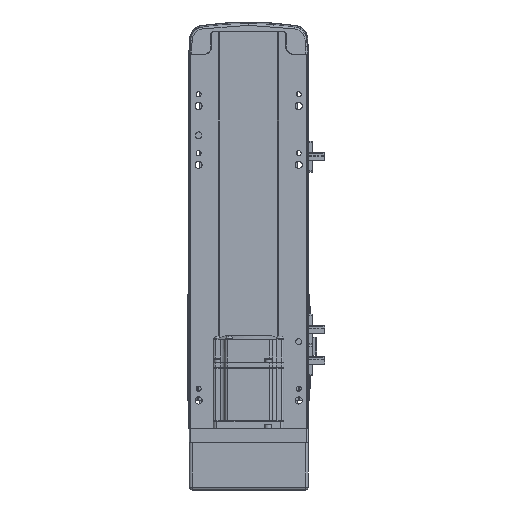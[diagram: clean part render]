
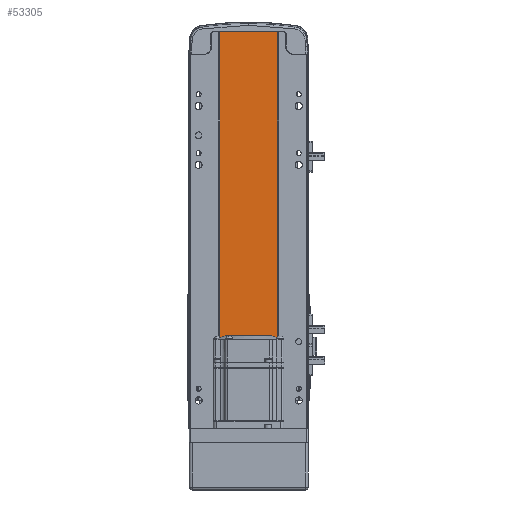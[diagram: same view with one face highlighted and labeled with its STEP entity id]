
A CAD part, front view. The second image highlights one B-rep face of the part: STEP entity #53305.
In plain terms, the highlighted planar face has unit normal (0, -1, 0).
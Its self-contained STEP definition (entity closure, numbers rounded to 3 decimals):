
#3609 = EDGE_CURVE ( 'NONE', #57370, #30029, #30535, .T. ) ;
#3958 = CARTESIAN_POINT ( 'NONE',  ( 0., 2., 0. ) ) ;
#6957 = EDGE_CURVE ( 'NONE', #30029, #22324, #50291, .T. ) ;
#8041 = CARTESIAN_POINT ( 'NONE',  ( 24.5, 2., 337. ) ) ;
#9507 = FACE_OUTER_BOUND ( 'NONE', #17286, .T. ) ;
#9883 = CARTESIAN_POINT ( 'NONE',  ( -24.5, 2., 337. ) ) ;
#11467 = CARTESIAN_POINT ( 'NONE',  ( 24.5, 2., 337. ) ) ;
#13985 = ORIENTED_EDGE ( 'NONE', *, *, #41884, .F. ) ;
#14304 = DIRECTION ( 'NONE',  ( 0., 1., 0. ) ) ;
#15312 = ORIENTED_EDGE ( 'NONE', *, *, #3609, .T. ) ;
#15748 = VECTOR ( 'NONE', #58631, 1000. ) ;
#17286 = EDGE_LOOP ( 'NONE', ( #18579, #13985, #46753, #15312 ) ) ;
#18430 = LINE ( 'NONE', #11467, #49634 ) ;
#18579 = ORIENTED_EDGE ( 'NONE', *, *, #6957, .T. ) ;
#20489 = VECTOR ( 'NONE', #35698, 1000. ) ;
#22324 = VERTEX_POINT ( 'NONE', #26382 ) ;
#26382 = CARTESIAN_POINT ( 'NONE',  ( 24.5, 2., 0. ) ) ;
#26984 = CARTESIAN_POINT ( 'NONE',  ( -24.5, 2., 337. ) ) ;
#29538 = DIRECTION ( 'NONE',  ( 0., 0., -1. ) ) ;
#30029 = VERTEX_POINT ( 'NONE', #53568 ) ;
#30535 = LINE ( 'NONE', #46974, #47513 ) ;
#34576 = VERTEX_POINT ( 'NONE', #8041 ) ;
#35698 = DIRECTION ( 'NONE',  ( 1., 0., 0. ) ) ;
#38690 = AXIS2_PLACEMENT_3D ( 'NONE', #54114, #14304, #54703 ) ;
#39312 = EDGE_CURVE ( 'NONE', #57370, #34576, #44145, .T. ) ;
#41884 = EDGE_CURVE ( 'NONE', #34576, #22324, #18430, .T. ) ;
#44145 = LINE ( 'NONE', #26984, #15748 ) ;
#45591 = PLANE ( 'NONE',  #38690 ) ;
#46753 = ORIENTED_EDGE ( 'NONE', *, *, #39312, .F. ) ;
#46974 = CARTESIAN_POINT ( 'NONE',  ( -24.5, 2., 337. ) ) ;
#47513 = VECTOR ( 'NONE', #29538, 1000. ) ;
#47928 = DIRECTION ( 'NONE',  ( 0., 0., -1. ) ) ;
#49634 = VECTOR ( 'NONE', #47928, 1000. ) ;
#50291 = LINE ( 'NONE', #3958, #20489 ) ;
#53305 = ADVANCED_FACE ( 'NONE', ( #9507 ), #45591, .F. ) ;
#53568 = CARTESIAN_POINT ( 'NONE',  ( -24.5, 2., 0. ) ) ;
#54114 = CARTESIAN_POINT ( 'NONE',  ( 0., 2., 337. ) ) ;
#54703 = DIRECTION ( 'NONE',  ( 0., 0., 1. ) ) ;
#57370 = VERTEX_POINT ( 'NONE', #9883 ) ;
#58631 = DIRECTION ( 'NONE',  ( 1., 0., 0. ) ) ;
